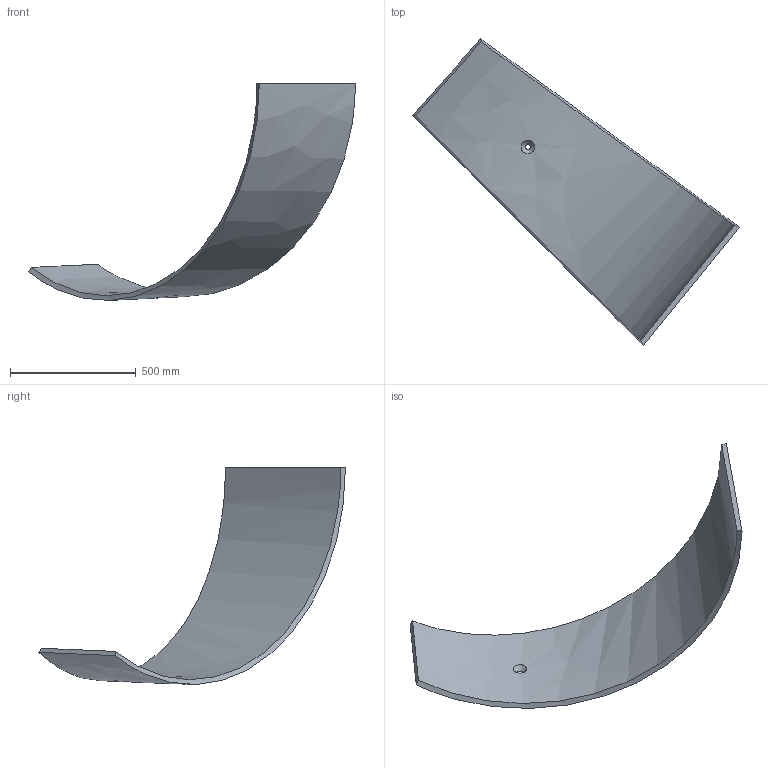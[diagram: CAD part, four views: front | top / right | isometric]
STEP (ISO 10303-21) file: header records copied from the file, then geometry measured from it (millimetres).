
FILE_DESCRIPTION (( 'STEP AP214' ), '1' );
FILE_NAME ('P8.2.STEP', '2025-01-09T19:43:28', ( '' ), ( '' ), 'SwSTEP 2.0', 'SolidWorks 2024', '' );
FILE_SCHEMA (( 'AUTOMOTIVE_DESIGN' ));
Length unit declared in the file: inch
Products named in the file (1): P8.2
Bounding box: 1301.54 x 1222.57 x 864.08 mm (x, y, z)
Volume: 18102796.8 mm3; surface area: 1938804.5 mm2
Topology: 1 solids, 1 shells, 8 faces, 18 edges, 12 vertices
Faces by surface type: bspline 7, cylinder 1
Full cylindrical faces by diameter (mm): 19.431 x1
Entity records: 2575 total; most frequent: CARTESIAN_POINT 2427, ORIENTED_EDGE 30, EDGE_CURVE 15, B_SPLINE_CURVE_WITH_KNOTS 15, EDGE_LOOP 12, VERTEX_POINT 11, FACE_OUTER_BOUND 10, ADVANCED_FACE 8
